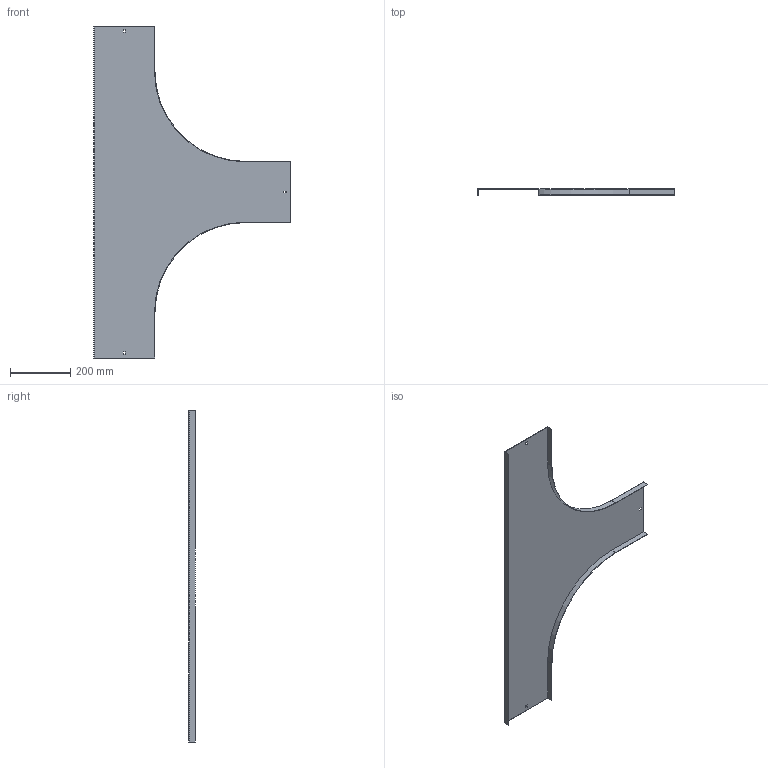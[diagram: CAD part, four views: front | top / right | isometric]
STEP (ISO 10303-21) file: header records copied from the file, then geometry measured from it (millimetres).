
FILE_DESCRIPTION (( 'STEP AP214' ), '1' );
FILE_NAME ('A2_15N3R200.step', '2025-02-21T12:06:27', ( '' ), ( '' ), 'SwSTEP 2.0', 'SolidWorks 2023', '' );
FILE_SCHEMA (( 'AUTOMOTIVE_DESIGN' ));
Length unit declared in the file: millimetre
Products named in the file (1): A2_15N3R200
Bounding box: 651.5 x 20 x 1100 mm (x, y, z)
Volume: 601882.9 mm3; surface area: 807686.7 mm2
Topology: 1 solids, 1 shells, 34 faces, 96 edges, 64 vertices
Faces by surface type: plane 30, cylinder 4
Entity records: 1123 total; most frequent: CARTESIAN_POINT 195, ORIENTED_EDGE 192, DIRECTION 174, EDGE_CURVE 96, VECTOR 88, LINE 88, VERTEX_POINT 64, AXIS2_PLACEMENT_3D 43
